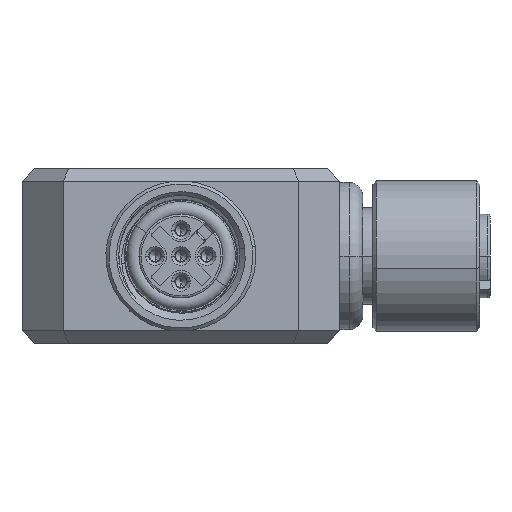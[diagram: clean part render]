
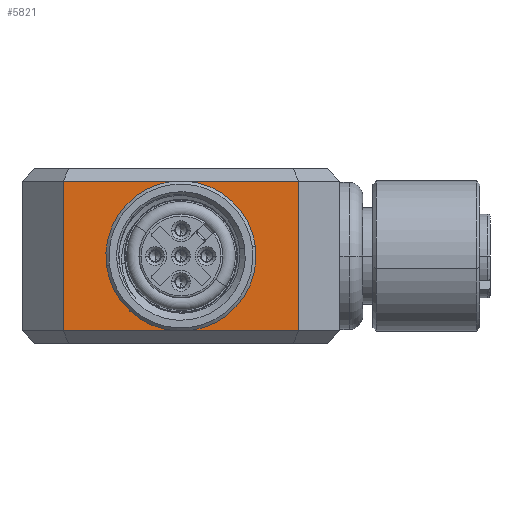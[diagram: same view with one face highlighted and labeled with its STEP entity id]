
A CAD part, left-side view. The second image highlights one B-rep face of the part: STEP entity #5821.
In plain terms, the highlighted planar face has unit normal (-1, 0, 0).
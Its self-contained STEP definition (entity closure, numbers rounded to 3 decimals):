
#22 = EDGE_LOOP ( 'NONE', ( #13103, #5456, #21755, #22716 ) ) ;
#138 = ORIENTED_EDGE ( 'NONE', *, *, #9843, .F. ) ;
#1049 = AXIS2_PLACEMENT_3D ( 'NONE', #2448, #23306, #16195 ) ;
#2448 = CARTESIAN_POINT ( 'NONE',  ( -11.75, 0., 0. ) ) ;
#3911 = VERTEX_POINT ( 'NONE', #9439 ) ;
#4528 = EDGE_LOOP ( 'NONE', ( #138, #6331 ) ) ;
#5313 = DIRECTION ( 'NONE',  ( 0., 0., 1. ) ) ;
#5456 = ORIENTED_EDGE ( 'NONE', *, *, #8005, .T. ) ;
#5821 = ADVANCED_FACE ( 'NONE', ( #31907, #27087 ), #28543, .F. ) ;
#5848 = DIRECTION ( 'NONE',  ( 1., 0., 0. ) ) ;
#5927 = VECTOR ( 'NONE', #5313, 1000. ) ;
#6331 = ORIENTED_EDGE ( 'NONE', *, *, #9068, .F. ) ;
#8005 = EDGE_CURVE ( 'NONE', #26387, #8807, #8769, .T. ) ;
#8127 = VERTEX_POINT ( 'NONE', #20810 ) ;
#8525 = EDGE_CURVE ( 'NONE', #8807, #12373, #24138, .T. ) ;
#8769 = LINE ( 'NONE', #28003, #21406 ) ;
#8807 = VERTEX_POINT ( 'NONE', #20535 ) ;
#9068 = EDGE_CURVE ( 'NONE', #3911, #25032, #31690, .T. ) ;
#9439 = CARTESIAN_POINT ( 'NONE',  ( -11.75, 0., -7.1 ) ) ;
#9843 = EDGE_CURVE ( 'NONE', #25032, #3911, #15429, .T. ) ;
#12373 = VERTEX_POINT ( 'NONE', #18766 ) ;
#13103 = ORIENTED_EDGE ( 'NONE', *, *, #31368, .T. ) ;
#15429 = CIRCLE ( 'NONE', #17863, 7.1 ) ;
#16154 = CARTESIAN_POINT ( 'NONE',  ( -11.75, 0., 0. ) ) ;
#16195 = DIRECTION ( 'NONE',  ( 0., 1., 0. ) ) ;
#16265 = DIRECTION ( 'NONE',  ( 0., 1., 0. ) ) ;
#17863 = AXIS2_PLACEMENT_3D ( 'NONE', #16154, #28903, #16265 ) ;
#18132 = DIRECTION ( 'NONE',  ( 0., 1., 0. ) ) ;
#18766 = CARTESIAN_POINT ( 'NONE',  ( -11.75, 11.35, -7.225 ) ) ;
#19038 = DIRECTION ( 'NONE',  ( 0., -1., 0. ) ) ;
#19063 = CARTESIAN_POINT ( 'NONE',  ( -11.75, 0., 7.1 ) ) ;
#19555 = EDGE_CURVE ( 'NONE', #12373, #8127, #22231, .T. ) ;
#20535 = CARTESIAN_POINT ( 'NONE',  ( -11.75, 11.35, 7.225 ) ) ;
#20810 = CARTESIAN_POINT ( 'NONE',  ( -11.75, -11.35, -7.225 ) ) ;
#21406 = VECTOR ( 'NONE', #18132, 1000. ) ;
#21755 = ORIENTED_EDGE ( 'NONE', *, *, #8525, .T. ) ;
#22231 = LINE ( 'NONE', #31839, #28201 ) ;
#22716 = ORIENTED_EDGE ( 'NONE', *, *, #19555, .T. ) ;
#23306 = DIRECTION ( 'NONE',  ( -1., 0., 0. ) ) ;
#23717 = LINE ( 'NONE', #30585, #5927 ) ;
#23832 = AXIS2_PLACEMENT_3D ( 'NONE', #31148, #5848, #26100 ) ;
#24138 = LINE ( 'NONE', #25178, #26536 ) ;
#25032 = VERTEX_POINT ( 'NONE', #19063 ) ;
#25178 = CARTESIAN_POINT ( 'NONE',  ( -11.75, 11.35, 8.425 ) ) ;
#26100 = DIRECTION ( 'NONE',  ( 0., 1., 0. ) ) ;
#26387 = VERTEX_POINT ( 'NONE', #27848 ) ;
#26536 = VECTOR ( 'NONE', #27641, 1000. ) ;
#27087 = FACE_BOUND ( 'NONE', #4528, .T. ) ;
#27641 = DIRECTION ( 'NONE',  ( 0., 0., -1. ) ) ;
#27848 = CARTESIAN_POINT ( 'NONE',  ( -11.75, -11.35, 7.225 ) ) ;
#28003 = CARTESIAN_POINT ( 'NONE',  ( -11.75, 11.35, 7.225 ) ) ;
#28201 = VECTOR ( 'NONE', #19038, 1000. ) ;
#28543 = PLANE ( 'NONE',  #23832 ) ;
#28903 = DIRECTION ( 'NONE',  ( -1., 0., 0. ) ) ;
#30585 = CARTESIAN_POINT ( 'NONE',  ( -11.75, -11.35, 8.425 ) ) ;
#31148 = CARTESIAN_POINT ( 'NONE',  ( -11.75, 15.35, 8.425 ) ) ;
#31368 = EDGE_CURVE ( 'NONE', #8127, #26387, #23717, .T. ) ;
#31690 = CIRCLE ( 'NONE', #1049, 7.1 ) ;
#31839 = CARTESIAN_POINT ( 'NONE',  ( -11.75, 15.35, -7.225 ) ) ;
#31907 = FACE_OUTER_BOUND ( 'NONE', #22, .T. ) ;
